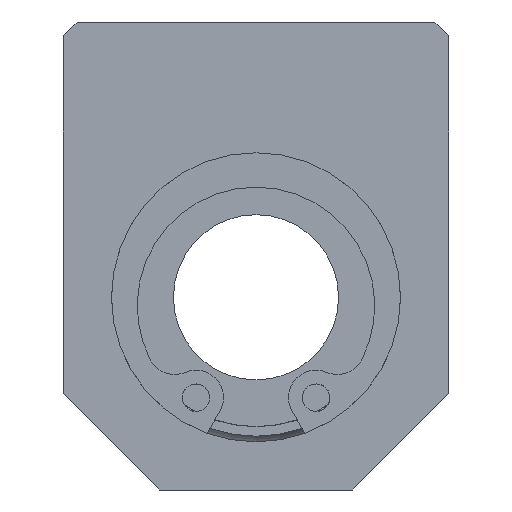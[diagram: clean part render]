
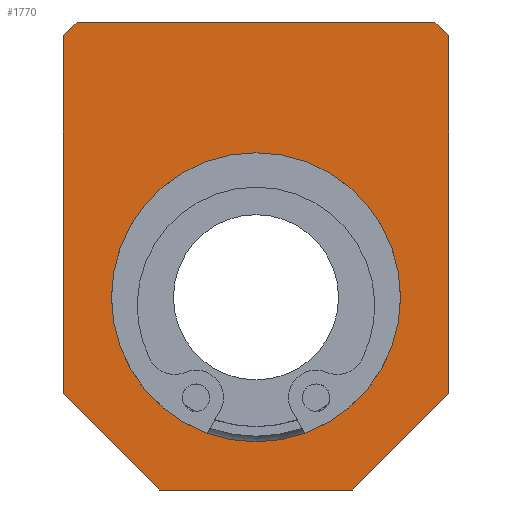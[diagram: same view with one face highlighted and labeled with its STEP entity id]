
A CAD part, left-side view. The second image highlights one B-rep face of the part: STEP entity #1770.
In plain terms, the highlighted planar face has unit normal (-1, 0, 0).
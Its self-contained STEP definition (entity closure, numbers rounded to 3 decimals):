
#1672=CARTESIAN_POINT('',(0.0,-13.,20.));
#1673=VERTEX_POINT('',#1672);
#1680=CARTESIAN_POINT('',(0.0,-14.,19.));
#1681=VERTEX_POINT('',#1680);
#1682=CARTESIAN_POINT('',(0.0,-13.,20.));
#1683=DIRECTION('',(0.0,-0.707,-0.707));
#1684=VECTOR('',#1683,1.414);
#1685=LINE('',#1682,#1684);
#1686=EDGE_CURVE('',#1673,#1681,#1685,.T.);
#1697=CARTESIAN_POINT('',(0.0,0.,3.));
#1698=DIRECTION('',(1.0,0.0,0.0));
#1699=DIRECTION('',(0.0,0.0,-1.0));
#1700=AXIS2_PLACEMENT_3D('',#1697,#1698,#1699);
#1701=PLANE('',#1700);
#1702=ORIENTED_EDGE('',*,*,#1686,.F.);
#1703=CARTESIAN_POINT('',(0.0,13.,20.));
#1704=VERTEX_POINT('',#1703);
#1705=CARTESIAN_POINT('',(0.0,-13.,20.));
#1706=DIRECTION('',(0.0,1.0,0.0));
#1707=VECTOR('',#1706,26.);
#1708=LINE('',#1705,#1707);
#1709=EDGE_CURVE('',#1673,#1704,#1708,.T.);
#1710=ORIENTED_EDGE('',*,*,#1709,.T.);
#1711=CARTESIAN_POINT('',(0.0,14.,19.));
#1712=VERTEX_POINT('',#1711);
#1713=CARTESIAN_POINT('',(0.0,14.,19.));
#1714=DIRECTION('',(0.0,-0.707,0.707));
#1715=VECTOR('',#1714,1.414);
#1716=LINE('',#1713,#1715);
#1717=EDGE_CURVE('',#1712,#1704,#1716,.T.);
#1718=ORIENTED_EDGE('',*,*,#1717,.F.);
#1719=CARTESIAN_POINT('',(0.0,14.,-7.));
#1720=VERTEX_POINT('',#1719);
#1721=CARTESIAN_POINT('',(0.0,14.,19.));
#1722=DIRECTION('',(0.0,0.0,-1.0));
#1723=VECTOR('',#1722,26.0);
#1724=LINE('',#1721,#1723);
#1725=EDGE_CURVE('',#1712,#1720,#1724,.T.);
#1726=ORIENTED_EDGE('',*,*,#1725,.T.);
#1727=CARTESIAN_POINT('',(0.0,7.,-14.));
#1728=VERTEX_POINT('',#1727);
#1729=CARTESIAN_POINT('',(0.0,7.,-14.));
#1730=DIRECTION('',(0.0,0.707,0.707));
#1731=VECTOR('',#1730,9.899);
#1732=LINE('',#1729,#1731);
#1733=EDGE_CURVE('',#1728,#1720,#1732,.T.);
#1734=ORIENTED_EDGE('',*,*,#1733,.F.);
#1735=CARTESIAN_POINT('',(0.0,-7.,-14.));
#1736=VERTEX_POINT('',#1735);
#1737=CARTESIAN_POINT('',(0.0,7.,-14.));
#1738=DIRECTION('',(0.0,-1.0,0.0));
#1739=VECTOR('',#1738,14.);
#1740=LINE('',#1737,#1739);
#1741=EDGE_CURVE('',#1728,#1736,#1740,.T.);
#1742=ORIENTED_EDGE('',*,*,#1741,.T.);
#1743=CARTESIAN_POINT('',(0.0,-14.,-7.));
#1744=VERTEX_POINT('',#1743);
#1745=CARTESIAN_POINT('',(0.0,-14.,-7.));
#1746=DIRECTION('',(0.0,0.707,-0.707));
#1747=VECTOR('',#1746,9.899);
#1748=LINE('',#1745,#1747);
#1749=EDGE_CURVE('',#1744,#1736,#1748,.T.);
#1750=ORIENTED_EDGE('',*,*,#1749,.F.);
#1751=CARTESIAN_POINT('',(0.0,-14.,-7.));
#1752=DIRECTION('',(0.0,0.0,1.0));
#1753=VECTOR('',#1752,26.0);
#1754=LINE('',#1751,#1753);
#1755=EDGE_CURVE('',#1744,#1681,#1754,.T.);
#1756=ORIENTED_EDGE('',*,*,#1755,.T.);
#1757=EDGE_LOOP('',(#1702,#1710,#1718,#1726,#1734,#1742,#1750,#1756));
#1758=FACE_OUTER_BOUND('',#1757,.T.);
#1759=CARTESIAN_POINT('',(0.0,10.5,0.));
#1760=VERTEX_POINT('',#1759);
#1761=CARTESIAN_POINT('',(0.0,0.0,0.0));
#1762=DIRECTION('',(1.0,0.0,0.0));
#1763=DIRECTION('',(0.0,-1.0,0.0));
#1764=AXIS2_PLACEMENT_3D('',#1761,#1762,#1763);
#1765=CIRCLE('',#1764,10.5);
#1766=EDGE_CURVE('',#1760,#1760,#1765,.T.);
#1767=ORIENTED_EDGE('',*,*,#1766,.T.);
#1768=EDGE_LOOP('',(#1767));
#1769=FACE_BOUND('',#1768,.T.);
#1770=ADVANCED_FACE('',(#1758,#1769),#1701,.F.);
